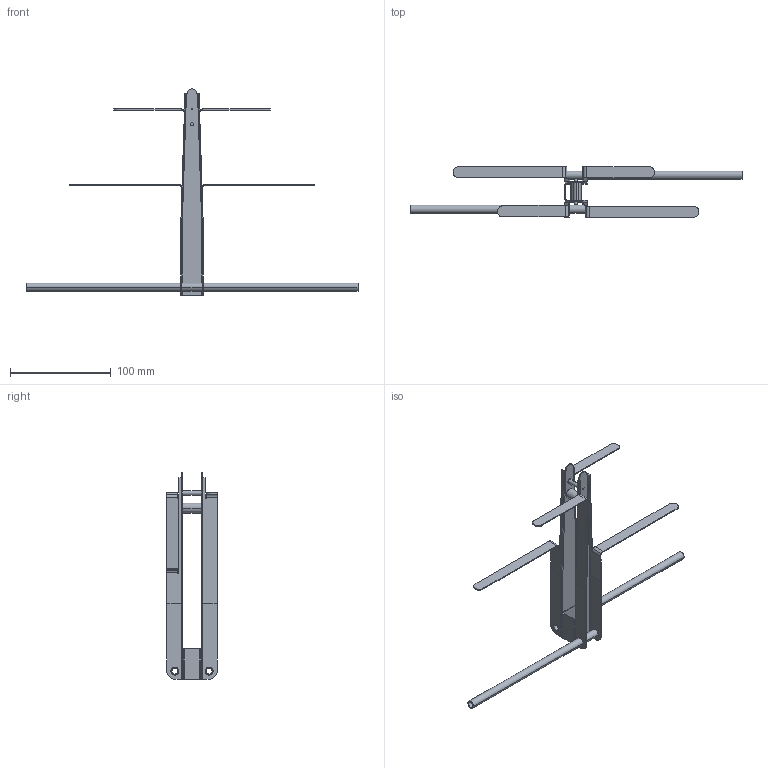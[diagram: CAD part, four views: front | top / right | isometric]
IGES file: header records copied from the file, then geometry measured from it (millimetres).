
Start section: 3D InterOp IGES (Version 24 0 0), Spatial Corp. Copyright (c) 1999-2007.
Global section: file name: Motylok.igs; native system: Spatial Corp.; preprocessor: 3D InterOp ACIS/IGES; author: Evgeny; organization: Noname; date: 20160109.142505; units: millimetre
Bounding box: 330 x 50 x 205 mm (x, y, z)
Surface area: 63436.5 mm2 (no closed solid volume)
Topology: 0 solids, 0 shells, 192 faces, 1012 edges, 1012 vertices
Faces by surface type: revolution 116, extrusion 76
